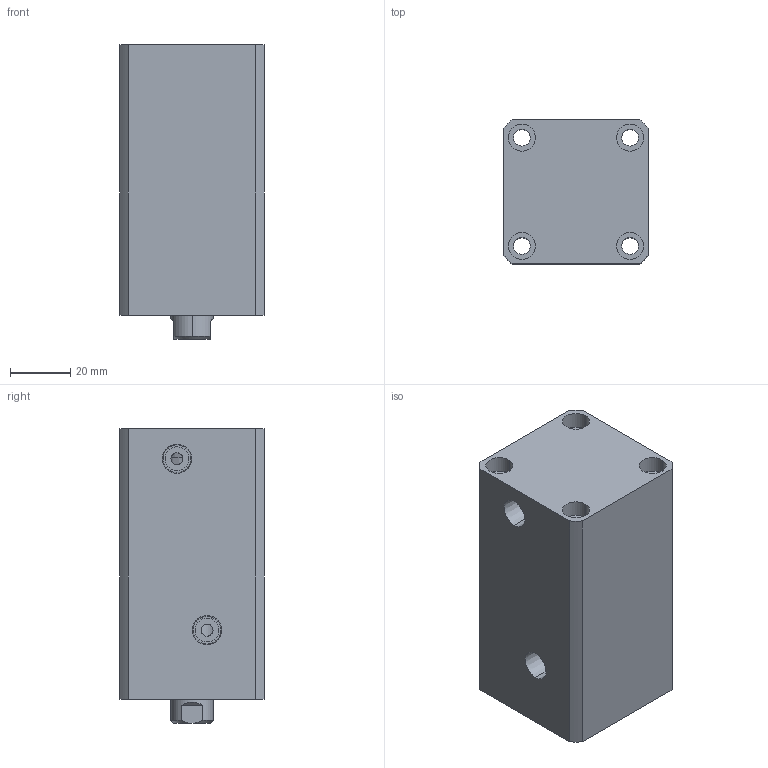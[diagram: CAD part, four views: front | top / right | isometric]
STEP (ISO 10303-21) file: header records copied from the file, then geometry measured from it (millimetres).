
FILE_DESCRIPTION (( 'STEP AP214' ), '1' );
FILE_NAME ('chtb-sd25x45n_asm.STEP', '2018-05-22T12:15:46', ( 'Windows' ), ( 'Microsoft' ), 'SwSTEP 2.0', 'SolidWorks 2015', '' );
FILE_SCHEMA (( 'AUTOMOTIVE_DESIGN' ));
Length unit declared in the file: millimetre
Products named in the file (4): CHTB-SD25X45NHSG; CHTB-SD25X45NBT; CHTB-25QG; chtb-sd25x45n_asm
Assembly tree (3 placements, depth 2):
  chtb-sd25x45n_asm
    CHTB-25QG
    CHTB-SD25X45NBT
    CHTB-SD25X45NHSG
Bounding box: 48 x 48 x 98 mm (x, y, z)
Volume: 177680.9 mm3; surface area: 46774.9 mm2
Topology: 3 solids, 3 shells, 144 faces, 377 edges, 257 vertices
Faces by surface type: cylinder 85, plane 36, cone 13, bspline 10
Entity records: 7940 total; most frequent: CARTESIAN_POINT 4299, ORIENTED_EDGE 742, DIRECTION 671, EDGE_CURVE 371, AXIS2_PLACEMENT_3D 278, VERTEX_POINT 257, EDGE_LOOP 182, FACE_OUTER_BOUND 144
